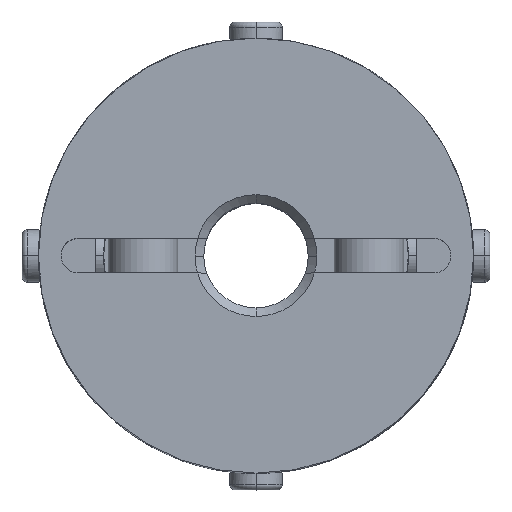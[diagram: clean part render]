
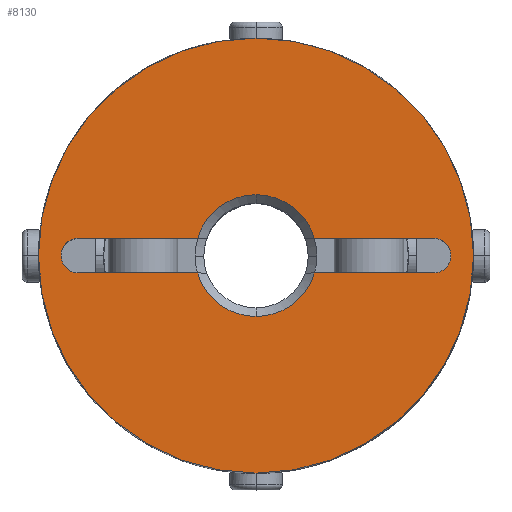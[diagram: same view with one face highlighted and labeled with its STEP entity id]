
A CAD part, top view. The second image highlights one B-rep face of the part: STEP entity #8130.
In plain terms, the highlighted planar face has unit normal (0, 0, 1).
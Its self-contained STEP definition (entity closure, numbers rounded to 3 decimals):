
#885=CARTESIAN_POINT('',(0.,12.5,13.5));
#886=VERTEX_POINT('',#885);
#893=CARTESIAN_POINT('',(0.,-12.5,13.5));
#894=VERTEX_POINT('',#893);
#895=CARTESIAN_POINT('',(0.,0.0,13.5));
#896=DIRECTION('',(0.0,0.0,-1.0));
#897=DIRECTION('',(0.0,-1.0,0.0));
#898=AXIS2_PLACEMENT_3D('',#895,#896,#897);
#899=CIRCLE('',#898,12.5);
#900=EDGE_CURVE('',#886,#894,#899,.T.);
#1153=CARTESIAN_POINT('',(10.907,0.707,13.5));
#1154=VERTEX_POINT('',#1153);
#1170=CARTESIAN_POINT('',(10.2,-1.,13.5));
#1171=VERTEX_POINT('',#1170);
#1178=CARTESIAN_POINT('',(10.2,0.,13.5));
#1179=DIRECTION('',(0.0,0.0,1.0));
#1180=DIRECTION('',(0.707,-0.707,0.0));
#1181=AXIS2_PLACEMENT_3D('',#1178,#1179,#1180);
#1182=CIRCLE('',#1181,1.0);
#1183=EDGE_CURVE('',#1171,#1154,#1182,.T.);
#1195=CARTESIAN_POINT('',(-10.907,-0.707,13.5));
#1196=VERTEX_POINT('',#1195);
#1212=CARTESIAN_POINT('',(-10.2,1.,13.5));
#1213=VERTEX_POINT('',#1212);
#1220=CARTESIAN_POINT('',(-10.2,0.,13.5));
#1221=DIRECTION('',(0.0,0.0,1.0));
#1222=DIRECTION('',(-0.707,0.707,0.0));
#1223=AXIS2_PLACEMENT_3D('',#1220,#1221,#1222);
#1224=CIRCLE('',#1223,1.0);
#1225=EDGE_CURVE('',#1213,#1196,#1224,.T.);
#1235=CARTESIAN_POINT('',(0.,3.5,13.5));
#1236=VERTEX_POINT('',#1235);
#1244=CARTESIAN_POINT('',(3.354,1.,13.5));
#1245=VERTEX_POINT('',#1244);
#1259=CARTESIAN_POINT('',(0.,0.0,13.5));
#1260=DIRECTION('',(0.0,0.0,1.0));
#1261=DIRECTION('',(0.0,1.0,0.0));
#1262=AXIS2_PLACEMENT_3D('',#1259,#1260,#1261);
#1263=CIRCLE('',#1262,3.5);
#1264=EDGE_CURVE('',#1245,#1236,#1263,.T.);
#1276=CARTESIAN_POINT('',(0.,-3.5,13.5));
#1277=VERTEX_POINT('',#1276);
#1293=CARTESIAN_POINT('',(-3.354,-1.,13.5));
#1294=VERTEX_POINT('',#1293);
#1308=CARTESIAN_POINT('',(0.,0.0,13.5));
#1309=DIRECTION('',(0.0,0.0,1.0));
#1310=DIRECTION('',(0.0,-1.0,0.0));
#1311=AXIS2_PLACEMENT_3D('',#1308,#1309,#1310);
#1312=CIRCLE('',#1311,3.5);
#1313=EDGE_CURVE('',#1294,#1277,#1312,.T.);
#7922=CARTESIAN_POINT('',(-10.2,-1.,13.5));
#7923=VERTEX_POINT('',#7922);
#7930=CARTESIAN_POINT('',(-3.354,-1.,13.5));
#7931=DIRECTION('',(-1.0,0.0,0.0));
#7932=VECTOR('',#7931,6.846);
#7933=LINE('',#7930,#7932);
#7934=EDGE_CURVE('',#1294,#7923,#7933,.T.);
#7991=CARTESIAN_POINT('',(-3.354,1.,13.5));
#7992=VERTEX_POINT('',#7991);
#8006=CARTESIAN_POINT('',(-10.2,1.,13.5));
#8007=DIRECTION('',(1.0,0.0,0.0));
#8008=VECTOR('',#8007,6.846);
#8009=LINE('',#8006,#8008);
#8010=EDGE_CURVE('',#1213,#7992,#8009,.T.);
#8027=CARTESIAN_POINT('',(3.354,-1.,13.5));
#8028=VERTEX_POINT('',#8027);
#8029=CARTESIAN_POINT('',(0.,0.0,13.5));
#8030=DIRECTION('',(0.0,0.0,1.0));
#8031=DIRECTION('',(0.0,-1.0,0.0));
#8032=AXIS2_PLACEMENT_3D('',#8029,#8030,#8031);
#8033=CIRCLE('',#8032,3.5);
#8034=EDGE_CURVE('',#1277,#8028,#8033,.T.);
#8061=CARTESIAN_POINT('',(10.2,-1.,13.5));
#8062=DIRECTION('',(-1.0,0.0,0.0));
#8063=VECTOR('',#8062,6.846);
#8064=LINE('',#8061,#8063);
#8065=EDGE_CURVE('',#1171,#8028,#8064,.T.);
#8076=CARTESIAN_POINT('',(0.,-1.136,13.5));
#8077=DIRECTION('',(0.0,0.0,1.0));
#8078=DIRECTION('',(0.0,-1.0,0.0));
#8079=AXIS2_PLACEMENT_3D('',#8076,#8077,#8078);
#8080=PLANE('',#8079);
#8081=CARTESIAN_POINT('',(0.,0.0,13.5));
#8082=DIRECTION('',(0.0,0.0,-1.0));
#8083=DIRECTION('',(0.0,-1.0,0.0));
#8084=AXIS2_PLACEMENT_3D('',#8081,#8082,#8083);
#8085=CIRCLE('',#8084,12.5);
#8086=EDGE_CURVE('',#894,#886,#8085,.T.);
#8087=ORIENTED_EDGE('',*,*,#8086,.F.);
#8088=ORIENTED_EDGE('',*,*,#900,.F.);
#8089=EDGE_LOOP('',(#8087,#8088));
#8090=FACE_OUTER_BOUND('',#8089,.T.);
#8091=ORIENTED_EDGE('',*,*,#1313,.F.);
#8092=ORIENTED_EDGE('',*,*,#7934,.T.);
#8093=CARTESIAN_POINT('',(-10.2,0.,13.5));
#8094=DIRECTION('',(0.0,0.0,1.0));
#8095=DIRECTION('',(-0.707,0.707,0.0));
#8096=AXIS2_PLACEMENT_3D('',#8093,#8094,#8095);
#8097=CIRCLE('',#8096,1.0);
#8098=EDGE_CURVE('',#1196,#7923,#8097,.T.);
#8099=ORIENTED_EDGE('',*,*,#8098,.F.);
#8100=ORIENTED_EDGE('',*,*,#1225,.F.);
#8101=ORIENTED_EDGE('',*,*,#8010,.T.);
#8102=CARTESIAN_POINT('',(0.,0.0,13.5));
#8103=DIRECTION('',(0.0,0.0,1.0));
#8104=DIRECTION('',(0.0,1.0,0.0));
#8105=AXIS2_PLACEMENT_3D('',#8102,#8103,#8104);
#8106=CIRCLE('',#8105,3.5);
#8107=EDGE_CURVE('',#1236,#7992,#8106,.T.);
#8108=ORIENTED_EDGE('',*,*,#8107,.F.);
#8109=ORIENTED_EDGE('',*,*,#1264,.F.);
#8110=CARTESIAN_POINT('',(10.2,1.,13.5));
#8111=VERTEX_POINT('',#8110);
#8112=CARTESIAN_POINT('',(3.354,1.,13.5));
#8113=DIRECTION('',(1.0,0.0,0.0));
#8114=VECTOR('',#8113,6.846);
#8115=LINE('',#8112,#8114);
#8116=EDGE_CURVE('',#1245,#8111,#8115,.T.);
#8117=ORIENTED_EDGE('',*,*,#8116,.T.);
#8118=CARTESIAN_POINT('',(10.2,0.,13.5));
#8119=DIRECTION('',(0.0,0.0,1.0));
#8120=DIRECTION('',(0.707,-0.707,0.0));
#8121=AXIS2_PLACEMENT_3D('',#8118,#8119,#8120);
#8122=CIRCLE('',#8121,1.0);
#8123=EDGE_CURVE('',#1154,#8111,#8122,.T.);
#8124=ORIENTED_EDGE('',*,*,#8123,.F.);
#8125=ORIENTED_EDGE('',*,*,#1183,.F.);
#8126=ORIENTED_EDGE('',*,*,#8065,.T.);
#8127=ORIENTED_EDGE('',*,*,#8034,.F.);
#8128=EDGE_LOOP('',(#8091,#8092,#8099,#8100,#8101,#8108,#8109,#8117,#8124,#8125,#8126,#8127));
#8129=FACE_BOUND('',#8128,.T.);
#8130=ADVANCED_FACE('',(#8090,#8129),#8080,.T.);
